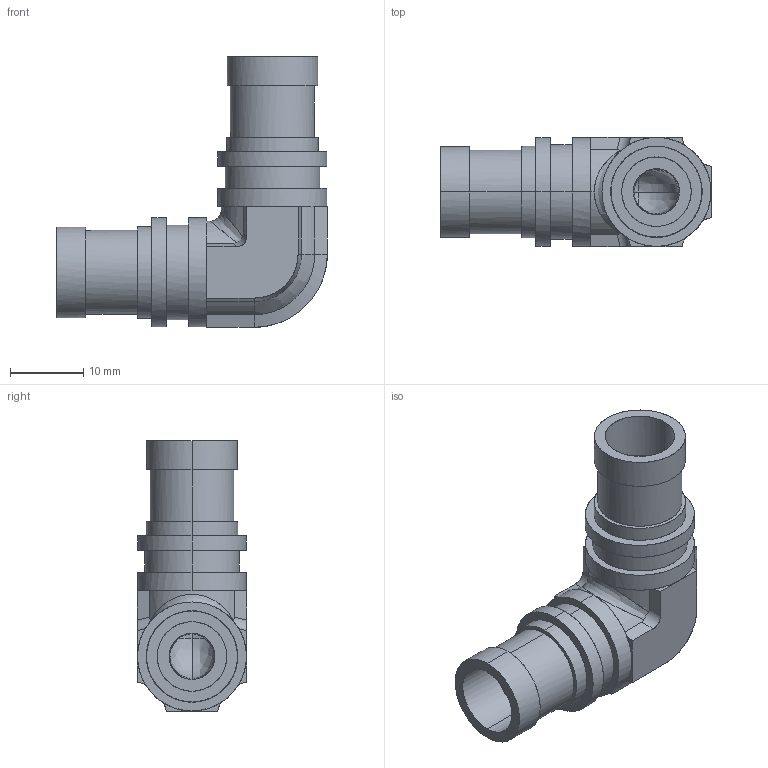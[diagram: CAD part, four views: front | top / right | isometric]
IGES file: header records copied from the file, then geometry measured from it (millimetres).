
Start section: Comment
Global section: file name: 70-9.5UE-P.igs; native system:  By Spatial Corp.; preprocessor: XPlus GENERIC/IGES 3.0; author: Author; organization: Title; date: 20100222.165102; units: inch
Bounding box: 37 x 15 x 37 mm (x, y, z)
Surface area: 4339.6 mm2 (no closed solid volume)
Topology: 0 solids, 0 shells, 93 faces, 422 edges, 420 vertices
Faces by surface type: bspline 93
